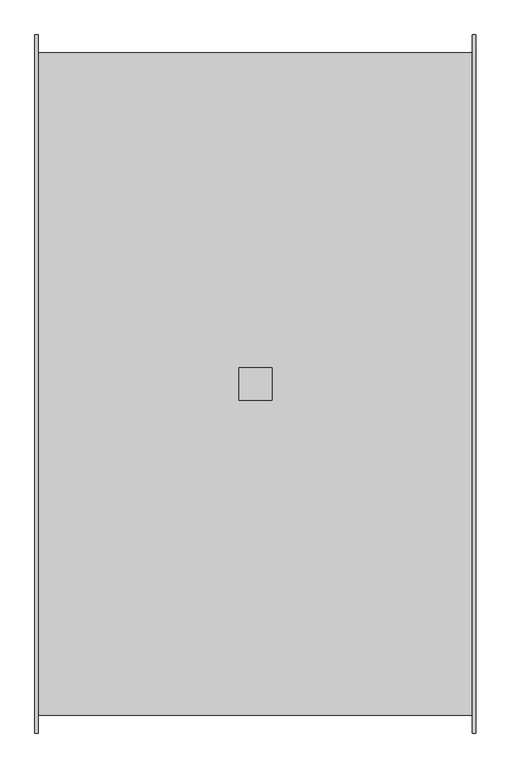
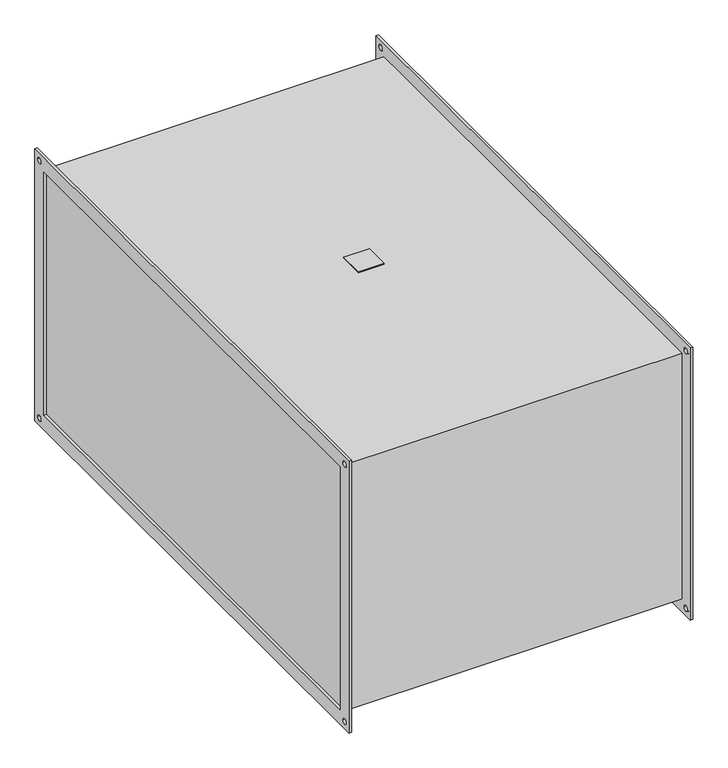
"""IFC4 building model written with IfcOpenShell, lengths in millimetres: proxy geometry, KORF_Вентилятор_WNP : WNP 100-50/40R.2D."""

from ifc_helpers import new_model, si_unit, point, frame, frame_2d, origin, place, context, project, spatial, polyline, circle_curve, trimmed, segment, composite_curve, outline, extrude, source, transform, mapped, element, save


def mechanical_equipment_9a050dc8(model_context):
    return source(origin(), model_context, "Body", "SweptSolid", [
        extrude(outline(polyline([(310.0, -25.0), (310.0, 25.0), (360.0, 25.0), (360.0, -25.0), (310.0, -25.0)])), frame((0.0, 0.0, 253.0), z_axis=(0.0, 0.0, 1.0), x_axis=(1.0, 0.0, 0.0)), (0.0, 0.0, 1.0), 2.0),
        extrude(outline(polyline([(-530.0, 280.0), (530.0, 280.0), (530.0, -280.0), (-530.0, -280.0), (-530.0, 280.0)]), holes=[polyline([(-500.0, 250.0), (-500.0, -250.0), (500.0, -250.0), (500.0, 250.0), (-500.0, 250.0)]), composite_curve([segment(trimmed(circle_curve(frame_2d((515.0, 265.0)), 5.5), [point((509.5, 265.0))], [point((520.5, 265.0))], True, "CARTESIAN"), True, "CONTINUOUS"), segment(trimmed(circle_curve(frame_2d((515.0, 265.0)), 5.5), [point((520.5, 265.0))], [point((509.5, 265.0))], True, "CARTESIAN"), True, "CONTINUOUS")], self_intersect=False), composite_curve([segment(trimmed(circle_curve(frame_2d((-515.0, 265.0)), 5.5), [point((-520.5, 265.0))], [point((-509.5, 265.0))], True, "CARTESIAN"), True, "CONTINUOUS"), segment(trimmed(circle_curve(frame_2d((-515.0, 265.0)), 5.5), [point((-509.5, 265.0))], [point((-520.5, 265.0))], True, "CARTESIAN"), True, "CONTINUOUS")], self_intersect=False), composite_curve([segment(trimmed(circle_curve(frame_2d((-515.0, -265.0)), 5.5), [point((-520.5, -265.0))], [point((-509.5, -265.0))], True, "CARTESIAN"), True, "CONTINUOUS"), segment(trimmed(circle_curve(frame_2d((-515.0, -265.0)), 5.5), [point((-509.5, -265.0))], [point((-520.5, -265.0))], True, "CARTESIAN"), True, "CONTINUOUS")], self_intersect=False), composite_curve([segment(trimmed(circle_curve(frame_2d((515.0, -265.0)), 5.5), [point((509.5, -265.0))], [point((520.5, -265.0))], True, "CARTESIAN"), True, "CONTINUOUS"), segment(trimmed(circle_curve(frame_2d((515.0, -265.0)), 5.5), [point((520.5, -265.0))], [point((509.5, -265.0))], True, "CARTESIAN"), True, "CONTINUOUS")], self_intersect=False)]), frame((665.0, 0.0, 0.0), z_axis=(1.0, 0.0, 0.0), x_axis=(0.0, 1.0, 0.0)), (0.0, 0.0, 1.0), 5.0),
        extrude(outline(polyline([(-530.0, 280.0), (530.0, 280.0), (530.0, -280.0), (-530.0, -280.0), (-530.0, 280.0)]), holes=[polyline([(-500.0, 250.0), (-500.0, -250.0), (500.0, -250.0), (500.0, 250.0), (-500.0, 250.0)]), composite_curve([segment(trimmed(circle_curve(frame_2d((515.0, 265.0)), 5.5), [point((509.5, 265.0))], [point((520.5, 265.0))], True, "CARTESIAN"), True, "CONTINUOUS"), segment(trimmed(circle_curve(frame_2d((515.0, 265.0)), 5.5), [point((520.5, 265.0))], [point((509.5, 265.0))], True, "CARTESIAN"), True, "CONTINUOUS")], self_intersect=False), composite_curve([segment(trimmed(circle_curve(frame_2d((-515.0, 265.0)), 5.5), [point((-520.5, 265.0))], [point((-509.5, 265.0))], True, "CARTESIAN"), True, "CONTINUOUS"), segment(trimmed(circle_curve(frame_2d((-515.0, 265.0)), 5.5), [point((-509.5, 265.0))], [point((-520.5, 265.0))], True, "CARTESIAN"), True, "CONTINUOUS")], self_intersect=False), composite_curve([segment(trimmed(circle_curve(frame_2d((-515.0, -265.0)), 5.5), [point((-520.5, -265.0))], [point((-509.5, -265.0))], True, "CARTESIAN"), True, "CONTINUOUS"), segment(trimmed(circle_curve(frame_2d((-515.0, -265.0)), 5.5), [point((-509.5, -265.0))], [point((-520.5, -265.0))], True, "CARTESIAN"), True, "CONTINUOUS")], self_intersect=False), composite_curve([segment(trimmed(circle_curve(frame_2d((515.0, -265.0)), 5.5), [point((509.5, -265.0))], [point((520.5, -265.0))], True, "CARTESIAN"), True, "CONTINUOUS"), segment(trimmed(circle_curve(frame_2d((515.0, -265.0)), 5.5), [point((520.5, -265.0))], [point((509.5, -265.0))], True, "CARTESIAN"), True, "CONTINUOUS")], self_intersect=False)]), frame((0.0, 0.0, 0.0), z_axis=(1.0, 0.0, 0.0), x_axis=(0.0, 1.0, 0.0)), (0.0, 0.0, 1.0), 5.0),
        extrude(outline(polyline([(665.0, 503.0), (665.0, -503.0), (5.0, -503.0), (5.0, 503.0), (665.0, 503.0)])), frame((0.0, 0.0, -253.0), z_axis=(0.0, 0.0, 1.0), x_axis=(1.0, 0.0, 0.0)), (0.0, 0.0, 1.0), 506.0),
    ])


if __name__ == "__main__":
    model = new_model("IFC4")
    model_context = context("Model", 3, world=origin())
    ifc_project = project(units=[si_unit("LENGTHUNIT", "METRE", prefix="MILLI")], contexts=[model_context])
    site = spatial("IfcSite", under=ifc_project)
    building = spatial("IfcBuilding", under=site)
    placement = place(None, origin())
    mechanical_equipment_shape = mechanical_equipment_9a050dc8(model_context)
    element("IfcBuildingElementProxy", 1, Name="KORF_Вентилятор_WNP : WNP 100-50/40R.2D", ObjectType="KORF_Вентилятор_WNP : WNP 100-50/40R.2D", at=placement, inside=building, context=model_context, shape_type="MappedRepresentation", body=[
        mapped(mechanical_equipment_shape, transform((0.0, 0.0, 0.0), x_axis=(1.0, 0.0, 0.0), y_axis=(0.0, 1.0, 0.0), z_axis=(0.0, 0.0, 1.0))),
    ])
    save(model, "model.ifc")
